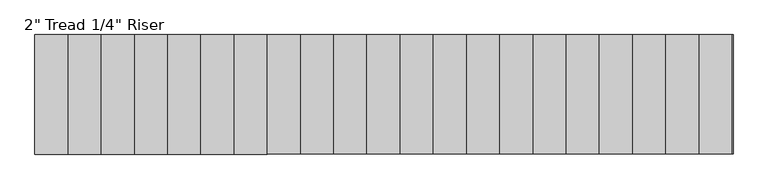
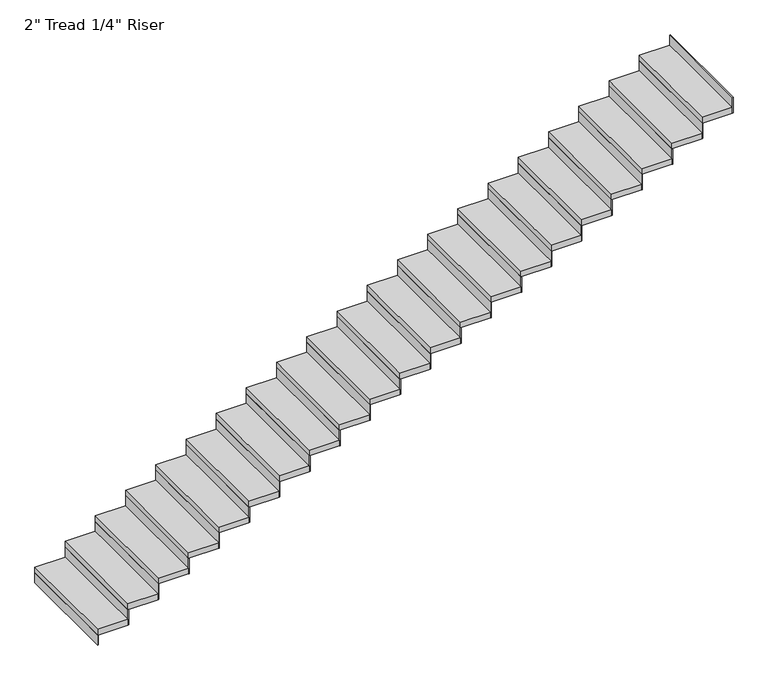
"""IFC4 building model written with IfcOpenShell, lengths in millimetres: stair flight geometry."""

from ifc_helpers import new_model, si_unit, frame, origin, origin_with_axes, place, context, project, spatial, polyline, outline, extrude, source, transform, mapped, element, save


def stair_flight_ea38ce52(model_context):
    return source(origin(), model_context, "Body", "SweptSolid", [
        extrude(outline(polyline([(35788.4072927, -35593.481782), (35782.0572927, -35593.481782), (35782.0572927, -34679.081782), (35788.4072927, -34679.081782), (35788.4072927, -35593.481782)])), origin_with_axes(), (0.0, 0.0, 1.0), 87.7454545),
        extrude(outline(polyline([(36036.0572927, -34679.081782), (36036.0572927, -35593.481782), (35782.0572927, -35593.481782), (35782.0572927, -34679.081782), (36036.0572927, -34679.081782)])), frame((0.0, 0.0, 87.7454545), z_axis=(0.0, 0.0, 1.0), x_axis=(1.0, 0.0, 0.0)), (0.0, 0.0, 1.0), 50.8),
        extrude(outline(polyline([(36042.4072927, -35593.481782), (36036.0572927, -35593.481782), (36036.0572927, -34679.081782), (36042.4072927, -34679.081782), (36042.4072927, -35593.481782)])), frame((0.0, 0.0, 87.7454545), z_axis=(0.0, 0.0, 1.0), x_axis=(1.0, 0.0, 0.0)), (0.0, 0.0, 1.0), 138.5454545),
        extrude(outline(polyline([(36290.0572927, -34679.081782), (36290.0572927, -35593.481782), (36036.0572927, -35593.481782), (36036.0572927, -34679.081782), (36290.0572927, -34679.081782)])), frame((0.0, 0.0, 226.2909091), z_axis=(0.0, 0.0, 1.0), x_axis=(1.0, 0.0, 0.0)), (0.0, 0.0, 1.0), 50.8),
        extrude(outline(polyline([(36296.4072927, -35593.481782), (36290.0572927, -35593.481782), (36290.0572927, -34679.081782), (36296.4072927, -34679.081782), (36296.4072927, -35593.481782)])), frame((0.0, 0.0, 226.2909091), z_axis=(0.0, 0.0, 1.0), x_axis=(1.0, 0.0, 0.0)), (0.0, 0.0, 1.0), 138.5454545),
        extrude(outline(polyline([(36544.0572927, -34679.081782), (36544.0572927, -35593.481782), (36290.0572927, -35593.481782), (36290.0572927, -34679.081782), (36544.0572927, -34679.081782)])), frame((0.0, 0.0, 364.8363636), z_axis=(0.0, 0.0, 1.0), x_axis=(1.0, 0.0, 0.0)), (0.0, 0.0, 1.0), 50.8),
        extrude(outline(polyline([(36550.4072927, -35593.481782), (36544.0572927, -35593.481782), (36544.0572927, -34679.081782), (36550.4072927, -34679.081782), (36550.4072927, -35593.481782)])), frame((0.0, 0.0, 364.8363636), z_axis=(0.0, 0.0, 1.0), x_axis=(1.0, 0.0, 0.0)), (0.0, 0.0, 1.0), 138.5454545),
        extrude(outline(polyline([(36798.0572927, -34679.081782), (36798.0572927, -35593.481782), (36544.0572927, -35593.481782), (36544.0572927, -34679.081782), (36798.0572927, -34679.081782)])), frame((0.0, 0.0, 503.3818182), z_axis=(0.0, 0.0, 1.0), x_axis=(1.0, 0.0, 0.0)), (0.0, 0.0, 1.0), 50.8),
        extrude(outline(polyline([(36804.4072927, -35593.481782), (36798.0572927, -35593.481782), (36798.0572927, -34679.081782), (36804.4072927, -34679.081782), (36804.4072927, -35593.481782)])), frame((0.0, 0.0, 503.3818182), z_axis=(0.0, 0.0, 1.0), x_axis=(1.0, 0.0, 0.0)), (0.0, 0.0, 1.0), 138.5454545),
        extrude(outline(polyline([(37052.0572927, -34679.081782), (37052.0572927, -35593.481782), (36798.0572927, -35593.481782), (36798.0572927, -34679.081782), (37052.0572927, -34679.081782)])), frame((0.0, 0.0, 641.9272727), z_axis=(0.0, 0.0, 1.0), x_axis=(1.0, 0.0, 0.0)), (0.0, 0.0, 1.0), 50.8),
        extrude(outline(polyline([(37058.4072927, -35593.481782), (37052.0572927, -35593.481782), (37052.0572927, -34679.081782), (37058.4072927, -34679.081782), (37058.4072927, -35593.481782)])), frame((0.0, 0.0, 641.9272727), z_axis=(0.0, 0.0, 1.0), x_axis=(1.0, 0.0, 0.0)), (0.0, 0.0, 1.0), 138.5454545),
        extrude(outline(polyline([(37306.0572927, -34679.081782), (37306.0572927, -35593.481782), (37052.0572927, -35593.481782), (37052.0572927, -34679.081782), (37306.0572927, -34679.081782)])), frame((0.0, 0.0, 780.4727273), z_axis=(0.0, 0.0, 1.0), x_axis=(1.0, 0.0, 0.0)), (0.0, 0.0, 1.0), 50.8),
        extrude(outline(polyline([(37312.4072927, -35593.481782), (37306.0572927, -35593.481782), (37306.0572927, -34679.081782), (37312.4072927, -34679.081782), (37312.4072927, -35593.481782)])), frame((0.0, 0.0, 780.4727273), z_axis=(0.0, 0.0, 1.0), x_axis=(1.0, 0.0, 0.0)), (0.0, 0.0, 1.0), 138.5454545),
        extrude(outline(polyline([(37560.0572927, -34679.081782), (37560.0572927, -35593.481782), (37306.0572927, -35593.481782), (37306.0572927, -34679.081782), (37560.0572927, -34679.081782)])), frame((0.0, 0.0, 919.0181818), z_axis=(0.0, 0.0, 1.0), x_axis=(1.0, 0.0, 0.0)), (0.0, 0.0, 1.0), 50.8),
        extrude(outline(polyline([(37566.4072927, -35593.481782), (37560.0572927, -35593.481782), (37560.0572927, -34679.081782), (37566.4072927, -34679.081782), (37566.4072927, -35593.481782)])), frame((0.0, 0.0, 919.0181818), z_axis=(0.0, 0.0, 1.0), x_axis=(1.0, 0.0, 0.0)), (0.0, 0.0, 1.0), 138.5454545),
        extrude(outline(polyline([(37814.0572927, -34679.081782), (37814.0572927, -35593.481782), (37560.0572927, -35593.481782), (37560.0572927, -34679.081782), (37814.0572927, -34679.081782)])), frame((0.0, 0.0, 1057.5636364), z_axis=(0.0, 0.0, 1.0), x_axis=(1.0, 0.0, 0.0)), (0.0, 0.0, 1.0), 50.8),
        extrude(outline(polyline([(37820.4072927, -35593.481782), (37814.0572927, -35593.481782), (37814.0572927, -34679.081782), (37820.4072927, -34679.081782), (37820.4072927, -35593.481782)])), frame((0.0, 0.0, 1057.5636364), z_axis=(0.0, 0.0, 1.0), x_axis=(1.0, 0.0, 0.0)), (0.0, 0.0, 1.0), 138.5454545),
        extrude(outline(polyline([(38068.0572927, -34679.081782), (38068.0572927, -35593.481782), (37814.0572927, -35593.481782), (37814.0572927, -34679.081782), (38068.0572927, -34679.081782)])), frame((0.0, 0.0, 1196.1090909), z_axis=(0.0, 0.0, 1.0), x_axis=(1.0, 0.0, 0.0)), (0.0, 0.0, 1.0), 50.8),
        extrude(outline(polyline([(38074.4072927, -35593.481782), (38068.0572927, -35593.481782), (38068.0572927, -34679.081782), (38074.4072927, -34679.081782), (38074.4072927, -35593.481782)])), frame((0.0, 0.0, 1196.1090909), z_axis=(0.0, 0.0, 1.0), x_axis=(1.0, 0.0, 0.0)), (0.0, 0.0, 1.0), 138.5454545),
        extrude(outline(polyline([(38322.0572927, -34679.081782), (38322.0572927, -35593.481782), (38068.0572927, -35593.481782), (38068.0572927, -34679.081782), (38322.0572927, -34679.081782)])), frame((0.0, 0.0, 1334.6545455), z_axis=(0.0, 0.0, 1.0), x_axis=(1.0, 0.0, 0.0)), (0.0, 0.0, 1.0), 50.8),
        extrude(outline(polyline([(38328.4072927, -35593.481782), (38322.0572927, -35593.481782), (38322.0572927, -34679.081782), (38328.4072927, -34679.081782), (38328.4072927, -35593.481782)])), frame((0.0, 0.0, 1334.6545455), z_axis=(0.0, 0.0, 1.0), x_axis=(1.0, 0.0, 0.0)), (0.0, 0.0, 1.0), 138.5454545),
        extrude(outline(polyline([(38576.0572927, -34679.081782), (38576.0572927, -35593.481782), (38322.0572927, -35593.481782), (38322.0572927, -34679.081782), (38576.0572927, -34679.081782)])), frame((0.0, 0.0, 1473.2), z_axis=(0.0, 0.0, 1.0), x_axis=(1.0, 0.0, 0.0)), (0.0, 0.0, 1.0), 50.8),
        extrude(outline(polyline([(38582.4072927, -35593.481782), (38576.0572927, -35593.481782), (38576.0572927, -34679.081782), (38582.4072927, -34679.081782), (38582.4072927, -35593.481782)])), frame((0.0, 0.0, 1473.2), z_axis=(0.0, 0.0, 1.0), x_axis=(1.0, 0.0, 0.0)), (0.0, 0.0, 1.0), 138.5454545),
        extrude(outline(polyline([(38830.0572927, -34679.081782), (38830.0572927, -35593.481782), (38576.0572927, -35593.481782), (38576.0572927, -34679.081782), (38830.0572927, -34679.081782)])), frame((0.0, 0.0, 1611.7454545), z_axis=(0.0, 0.0, 1.0), x_axis=(1.0, 0.0, 0.0)), (0.0, 0.0, 1.0), 50.8),
        extrude(outline(polyline([(38836.4072927, -35593.481782), (38830.0572927, -35593.481782), (38830.0572927, -34679.081782), (38836.4072927, -34679.081782), (38836.4072927, -35593.481782)])), frame((0.0, 0.0, 1611.7454545), z_axis=(0.0, 0.0, 1.0), x_axis=(1.0, 0.0, 0.0)), (0.0, 0.0, 1.0), 138.5454545),
        extrude(outline(polyline([(39084.0572927, -34679.081782), (39084.0572927, -35593.481782), (38830.0572927, -35593.481782), (38830.0572927, -34679.081782), (39084.0572927, -34679.081782)])), frame((0.0, 0.0, 1750.2909091), z_axis=(0.0, 0.0, 1.0), x_axis=(1.0, 0.0, 0.0)), (0.0, 0.0, 1.0), 50.8),
        extrude(outline(polyline([(39090.4072927, -35593.481782), (39084.0572927, -35593.481782), (39084.0572927, -34679.081782), (39090.4072927, -34679.081782), (39090.4072927, -35593.481782)])), frame((0.0, 0.0, 1750.2909091), z_axis=(0.0, 0.0, 1.0), x_axis=(1.0, 0.0, 0.0)), (0.0, 0.0, 1.0), 138.5454545),
        extrude(outline(polyline([(39338.0572927, -34679.081782), (39338.0572927, -35593.481782), (39084.0572927, -35593.481782), (39084.0572927, -34679.081782), (39338.0572927, -34679.081782)])), frame((0.0, 0.0, 1888.8363636), z_axis=(0.0, 0.0, 1.0), x_axis=(1.0, 0.0, 0.0)), (0.0, 0.0, 1.0), 50.8),
        extrude(outline(polyline([(39344.4072927, -35593.481782), (39338.0572927, -35593.481782), (39338.0572927, -34679.081782), (39344.4072927, -34679.081782), (39344.4072927, -35593.481782)])), frame((0.0, 0.0, 1888.8363636), z_axis=(0.0, 0.0, 1.0), x_axis=(1.0, 0.0, 0.0)), (0.0, 0.0, 1.0), 138.5454545),
        extrude(outline(polyline([(39592.0572927, -34679.081782), (39592.0572927, -35593.481782), (39338.0572927, -35593.481782), (39338.0572927, -34679.081782), (39592.0572927, -34679.081782)])), frame((0.0, 0.0, 2027.3818182), z_axis=(0.0, 0.0, 1.0), x_axis=(1.0, 0.0, 0.0)), (0.0, 0.0, 1.0), 50.8),
        extrude(outline(polyline([(39598.4072927, -35593.481782), (39592.0572927, -35593.481782), (39592.0572927, -34679.081782), (39598.4072927, -34679.081782), (39598.4072927, -35593.481782)])), frame((0.0, 0.0, 2027.3818182), z_axis=(0.0, 0.0, 1.0), x_axis=(1.0, 0.0, 0.0)), (0.0, 0.0, 1.0), 138.5454545),
        extrude(outline(polyline([(39846.0572927, -34679.081782), (39846.0572927, -35593.481782), (39592.0572927, -35593.481782), (39592.0572927, -34679.081782), (39846.0572927, -34679.081782)])), frame((0.0, 0.0, 2165.9272727), z_axis=(0.0, 0.0, 1.0), x_axis=(1.0, 0.0, 0.0)), (0.0, 0.0, 1.0), 50.8),
        extrude(outline(polyline([(39852.4072927, -35593.481782), (39846.0572927, -35593.481782), (39846.0572927, -34679.081782), (39852.4072927, -34679.081782), (39852.4072927, -35593.481782)])), frame((0.0, 0.0, 2165.9272727), z_axis=(0.0, 0.0, 1.0), x_axis=(1.0, 0.0, 0.0)), (0.0, 0.0, 1.0), 138.5454545),
        extrude(outline(polyline([(40100.0572927, -34679.081782), (40100.0572927, -35593.481782), (39846.0572927, -35593.481782), (39846.0572927, -34679.081782), (40100.0572927, -34679.081782)])), frame((0.0, 0.0, 2304.4727273), z_axis=(0.0, 0.0, 1.0), x_axis=(1.0, 0.0, 0.0)), (0.0, 0.0, 1.0), 50.8),
        extrude(outline(polyline([(40106.4072927, -35593.481782), (40100.0572927, -35593.481782), (40100.0572927, -34679.081782), (40106.4072927, -34679.081782), (40106.4072927, -35593.481782)])), frame((0.0, 0.0, 2304.4727273), z_axis=(0.0, 0.0, 1.0), x_axis=(1.0, 0.0, 0.0)), (0.0, 0.0, 1.0), 138.5454545),
        extrude(outline(polyline([(40354.0572927, -34679.081782), (40354.0572927, -35593.481782), (40100.0572927, -35593.481782), (40100.0572927, -34679.081782), (40354.0572927, -34679.081782)])), frame((0.0, 0.0, 2443.0181818), z_axis=(0.0, 0.0, 1.0), x_axis=(1.0, 0.0, 0.0)), (0.0, 0.0, 1.0), 50.8),
        extrude(outline(polyline([(40360.4072927, -35593.481782), (40354.0572927, -35593.481782), (40354.0572927, -34679.081782), (40360.4072927, -34679.081782), (40360.4072927, -35593.481782)])), frame((0.0, 0.0, 2443.0181818), z_axis=(0.0, 0.0, 1.0), x_axis=(1.0, 0.0, 0.0)), (0.0, 0.0, 1.0), 138.5454545),
        extrude(outline(polyline([(40608.0572927, -34679.081782), (40608.0572927, -35593.481782), (40354.0572927, -35593.481782), (40354.0572927, -34679.081782), (40608.0572927, -34679.081782)])), frame((0.0, 0.0, 2581.5636364), z_axis=(0.0, 0.0, 1.0), x_axis=(1.0, 0.0, 0.0)), (0.0, 0.0, 1.0), 50.8),
        extrude(outline(polyline([(40614.4072927, -35593.481782), (40608.0572927, -35593.481782), (40608.0572927, -34679.081782), (40614.4072927, -34679.081782), (40614.4072927, -35593.481782)])), frame((0.0, 0.0, 2581.5636364), z_axis=(0.0, 0.0, 1.0), x_axis=(1.0, 0.0, 0.0)), (0.0, 0.0, 1.0), 138.5454545),
        extrude(outline(polyline([(40862.0572927, -34679.081782), (40862.0572927, -35593.481782), (40608.0572927, -35593.481782), (40608.0572927, -34679.081782), (40862.0572927, -34679.081782)])), frame((0.0, 0.0, 2720.1090909), z_axis=(0.0, 0.0, 1.0), x_axis=(1.0, 0.0, 0.0)), (0.0, 0.0, 1.0), 50.8),
        extrude(outline(polyline([(40868.4072927, -35593.481782), (40862.0572927, -35593.481782), (40862.0572927, -34679.081782), (40868.4072927, -34679.081782), (40868.4072927, -35593.481782)])), frame((0.0, 0.0, 2720.1090909), z_axis=(0.0, 0.0, 1.0), x_axis=(1.0, 0.0, 0.0)), (0.0, 0.0, 1.0), 138.5454545),
        extrude(outline(polyline([(41122.4072927, -35593.481782), (41116.0572927, -35593.481782), (41116.0572927, -34679.081782), (41122.4072927, -34679.081782), (41122.4072927, -35593.481782)])), frame((0.0, 0.0, 2858.6545455), z_axis=(0.0, 0.0, 1.0), x_axis=(1.0, 0.0, 0.0)), (0.0, 0.0, 1.0), 138.5454545),
        extrude(outline(polyline([(41116.0572927, -34679.081782), (41116.0572927, -35593.481782), (40862.0572927, -35593.481782), (40862.0572927, -34679.081782), (41116.0572927, -34679.081782)])), frame((0.0, 0.0, 2858.6545455), z_axis=(0.0, 0.0, 1.0), x_axis=(1.0, 0.0, 0.0)), (0.0, 0.0, 1.0), 50.8),
    ])


if __name__ == "__main__":
    model = new_model("IFC4")
    model_context = context("Model", 3, world=origin())
    ifc_project = project(units=[si_unit("LENGTHUNIT", "METRE", prefix="MILLI")], contexts=[model_context])
    site = spatial("IfcSite", under=ifc_project)
    building = spatial("IfcBuilding", under=site)
    placement = place(None, origin())
    stair_flight_shape = stair_flight_ea38ce52(model_context)
    element("IfcStairFlight", 1, ObjectType="2\" Tread 1/4\" Riser", at=placement, inside=building, context=model_context, shape_type="MappedRepresentation", body=[
        mapped(stair_flight_shape, transform((0.0, 0.0, 0.0), x_axis=(1.0, 0.0, 0.0), y_axis=(0.0, 1.0, 0.0), z_axis=(0.0, 0.0, 1.0))),
    ])
    save(model, "model.ifc")
